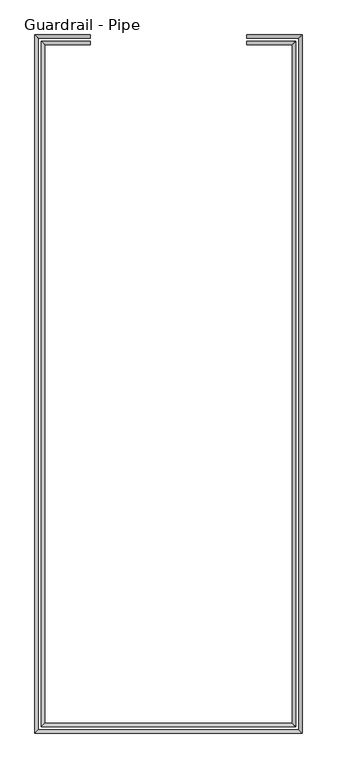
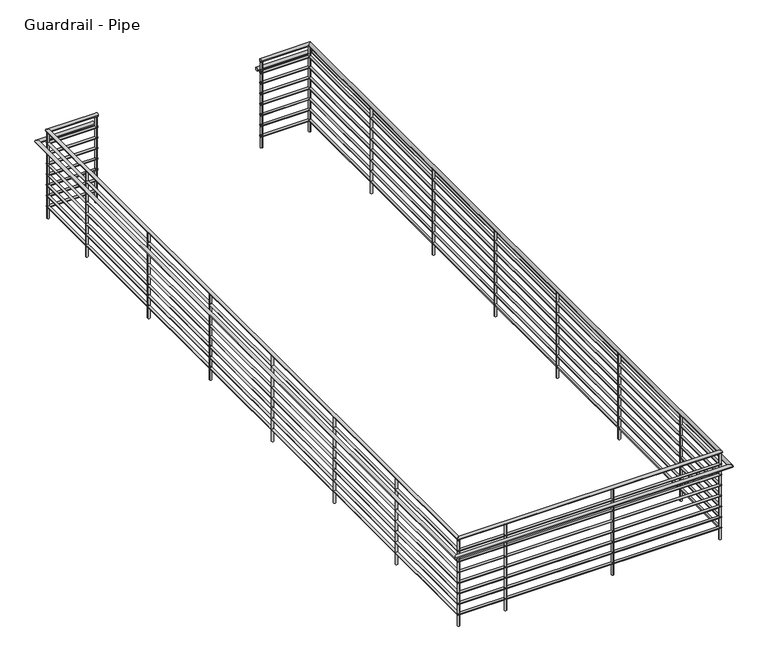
"""IFC4 building model written with IfcOpenShell, lengths in millimetres: railing geometry, Guardrail - Pipe."""

from ifc_helpers import new_model, si_unit, point, frame, frame_2d, origin, place, context, project, spatial, circle_curve, ellipse_curve, trimmed, segment, composite_curve, outline, extrude, source, transform, mapped, element, save
from ifc_brep_helpers import plane_surface, cylinder_surface, advanced_brep


def guardrail_pipe_5d98fd56(model_context):
    return source(origin(), model_context, "Body", "SolidModel", [
        advanced_brep(
        [(13389.3313551, 18983.25, 8362.95), (13389.3313551, 18945.15, 8362.95), (13967.1813551, 18983.25, 8362.95), (13929.0813551, 18945.15, 8362.95), (13967.1813551, 10867.95, 8362.95), (13929.0813551, 10906.05, 8362.95), (10956.4813551, 10867.95, 8362.95), (10994.5813551, 10906.05, 8362.95), (10956.4813551, 18983.25, 8362.95), (10994.5813551, 18945.15, 8362.95), (11534.3313551, 18983.25, 8362.95), (11534.3313551, 18945.15, 8362.95)],
        [
            (0, 1, circle_curve(frame((13389.3313551, 18964.2, 8362.95), z_axis=(-1.0, 0.0, 0.0), x_axis=(0.0, -1.0, 0.0)), 19.05)),
            (1, 0, circle_curve(frame((13389.3313551, 18964.2, 8362.95), z_axis=(-1.0, 0.0, 0.0), x_axis=(0.0, -1.0, 0.0)), 19.05)),
            (0, 2),
            (2, 3, ellipse_curve(frame((13948.1313551, 18964.2, 8362.95), z_axis=(-0.7071067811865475, 0.7071067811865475, 0.0), x_axis=(-0.7071067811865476, -0.7071067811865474, 0.0)), 26.9407684, 19.05)),
            (3, 1),
            (3, 2, ellipse_curve(frame((13948.1313551, 18964.2, 8362.95), z_axis=(-0.7071067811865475, 0.7071067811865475, 0.0), x_axis=(-0.7071067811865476, -0.7071067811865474, 0.0)), 26.9407684, 19.05)),
            (2, 4),
            (4, 5, ellipse_curve(frame((13948.1313551, 10887.0, 8362.95), z_axis=(0.7071067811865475, 0.7071067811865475, 0.0), x_axis=(-0.7071067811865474, 0.7071067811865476, 0.0)), 26.9407684, 19.05)),
            (5, 3),
            (5, 4, ellipse_curve(frame((13948.1313551, 10887.0, 8362.95), z_axis=(0.7071067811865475, 0.7071067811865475, 0.0), x_axis=(-0.7071067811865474, 0.7071067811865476, 0.0)), 26.9407684, 19.05)),
            (4, 6),
            (6, 7, ellipse_curve(frame((10975.5313551, 10887.0, 8362.95), z_axis=(0.7071067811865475, -0.7071067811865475, 0.0), x_axis=(0.7071067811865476, 0.7071067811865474, 0.0)), 26.9407684, 19.05)),
            (7, 5),
            (7, 6, ellipse_curve(frame((10975.5313551, 10887.0, 8362.95), z_axis=(0.7071067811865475, -0.7071067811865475, 0.0), x_axis=(0.7071067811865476, 0.7071067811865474, 0.0)), 26.9407684, 19.05)),
            (6, 8),
            (8, 9, ellipse_curve(frame((10975.5313551, 18964.2, 8362.95), z_axis=(-0.7071067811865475, -0.7071067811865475, 0.0), x_axis=(0.7071067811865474, -0.7071067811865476, 0.0)), 26.9407684, 19.05)),
            (9, 7),
            (9, 8, ellipse_curve(frame((10975.5313551, 18964.2, 8362.95), z_axis=(-0.7071067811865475, -0.7071067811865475, 0.0), x_axis=(0.7071067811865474, -0.7071067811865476, 0.0)), 26.9407684, 19.05)),
            (10, 11, circle_curve(frame((11534.3313551, 18964.2, 8362.95), z_axis=(1.0, 0.0, 0.0), x_axis=(0.0, -1.0, 0.0)), 19.05)),
            (11, 10, circle_curve(frame((11534.3313551, 18964.2, 8362.95), z_axis=(1.0, 0.0, 0.0), x_axis=(0.0, -1.0, 0.0)), 19.05)),
            (8, 10),
            (11, 9),
        ],
        [
            plane_surface(frame((13389.3313551, 18964.2, 8382.0), z_axis=(-1.0, 0.0, 0.0), x_axis=(0.0, 1.0, 0.0))),
            cylinder_surface(frame((13389.3313551, 18964.2, 8362.95), z_axis=(-1.0, 0.0, 0.0), x_axis=(0.0, -1.0, 0.0)), 19.05),
            cylinder_surface(frame((13948.1313551, 18964.2, 8362.95), z_axis=(0.0, 1.0, 0.0), x_axis=(-1.0, 0.0, 0.0)), 19.05),
            cylinder_surface(frame((13948.1313551, 10887.0, 8362.95), z_axis=(1.0, 0.0, 0.0), x_axis=(0.0, 1.0, 0.0)), 19.05),
            cylinder_surface(frame((10975.5313551, 10887.0, 8362.95), z_axis=(0.0, -1.0, 0.0), x_axis=(1.0, 0.0, 0.0)), 19.05),
            plane_surface(frame((11534.3313551, 18964.2, 8382.0), z_axis=(1.0, 0.0, 0.0), x_axis=(0.0, 1.0, 0.0))),
            cylinder_surface(frame((10975.5313551, 18964.2, 8362.95), z_axis=(-1.0, 0.0, 0.0), x_axis=(0.0, -1.0, 0.0)), 19.05),
        ],
        [
            (0, [[1, 2]]),
            (1, [[-1, 3, 4, 5]]),
            (1, [[-2, -5, 6, -3]]),
            (2, [[-4, 7, 8, 9]]),
            (2, [[-6, -9, 10, -7]]),
            (3, [[-8, 11, 12, 13]]),
            (3, [[-10, -13, 14, -11]]),
            (4, [[-12, 15, 16, 17]]),
            (4, [[-14, -17, 18, -15]]),
            (5, [[19, 20]]),
            (6, [[-16, 21, -20, 22]]),
            (6, [[-18, -22, -19, -21]]),
        ],
    ),
        advanced_brep(
        [(13389.3313551, 18976.9, 8216.9), (13389.3313551, 18951.5, 8216.9), (13960.8313551, 18976.9, 8216.9), (13935.4313551, 18951.5, 8216.9), (13960.8313551, 10874.3, 8216.9), (13935.4313551, 10899.7, 8216.9), (10962.8313551, 10874.3, 8216.9), (10988.2313551, 10899.7, 8216.9), (10962.8313551, 18976.9, 8216.9), (10988.2313551, 18951.5, 8216.9), (11534.3313551, 18976.9, 8216.9), (11534.3313551, 18951.5, 8216.9)],
        [
            (0, 1, circle_curve(frame((13389.3313551, 18964.2, 8216.9), z_axis=(-1.0, 0.0, 0.0), x_axis=(0.0, -1.0, 0.0)), 12.7)),
            (1, 0, circle_curve(frame((13389.3313551, 18964.2, 8216.9), z_axis=(-1.0, 0.0, 0.0), x_axis=(0.0, -1.0, 0.0)), 12.7)),
            (0, 2),
            (2, 3, ellipse_curve(frame((13948.1313551, 18964.2, 8216.9), z_axis=(-0.7071067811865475, 0.7071067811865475, 0.0), x_axis=(-0.7071067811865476, -0.7071067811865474, 0.0)), 17.9605122, 12.7)),
            (3, 1),
            (3, 2, ellipse_curve(frame((13948.1313551, 18964.2, 8216.9), z_axis=(-0.7071067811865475, 0.7071067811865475, 0.0), x_axis=(-0.7071067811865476, -0.7071067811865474, 0.0)), 17.9605122, 12.7)),
            (2, 4),
            (4, 5, ellipse_curve(frame((13948.1313551, 10887.0, 8216.9), z_axis=(0.7071067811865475, 0.7071067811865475, 0.0), x_axis=(-0.7071067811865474, 0.7071067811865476, 0.0)), 17.9605122, 12.7)),
            (5, 3),
            (5, 4, ellipse_curve(frame((13948.1313551, 10887.0, 8216.9), z_axis=(0.7071067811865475, 0.7071067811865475, 0.0), x_axis=(-0.7071067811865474, 0.7071067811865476, 0.0)), 17.9605122, 12.7)),
            (4, 6),
            (6, 7, ellipse_curve(frame((10975.5313551, 10887.0, 8216.9), z_axis=(0.7071067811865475, -0.7071067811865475, 0.0), x_axis=(0.7071067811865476, 0.7071067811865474, 0.0)), 17.9605122, 12.7)),
            (7, 5),
            (7, 6, ellipse_curve(frame((10975.5313551, 10887.0, 8216.9), z_axis=(0.7071067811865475, -0.7071067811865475, 0.0), x_axis=(0.7071067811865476, 0.7071067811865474, 0.0)), 17.9605122, 12.7)),
            (6, 8),
            (8, 9, ellipse_curve(frame((10975.5313551, 18964.2, 8216.9), z_axis=(-0.7071067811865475, -0.7071067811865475, 0.0), x_axis=(0.7071067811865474, -0.7071067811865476, 0.0)), 17.9605122, 12.7)),
            (9, 7),
            (9, 8, ellipse_curve(frame((10975.5313551, 18964.2, 8216.9), z_axis=(-0.7071067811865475, -0.7071067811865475, 0.0), x_axis=(0.7071067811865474, -0.7071067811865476, 0.0)), 17.9605122, 12.7)),
            (10, 11, circle_curve(frame((11534.3313551, 18964.2, 8216.9), z_axis=(1.0, 0.0, 0.0), x_axis=(0.0, -1.0, 0.0)), 12.7)),
            (11, 10, circle_curve(frame((11534.3313551, 18964.2, 8216.9), z_axis=(1.0, 0.0, 0.0), x_axis=(0.0, -1.0, 0.0)), 12.7)),
            (8, 10),
            (11, 9),
        ],
        [
            plane_surface(frame((13389.3313551, 18964.2, 8229.6), z_axis=(-1.0, 0.0, 0.0), x_axis=(0.0, 1.0, 0.0))),
            cylinder_surface(frame((13389.3313551, 18964.2, 8216.9), z_axis=(-1.0, 0.0, 0.0), x_axis=(0.0, -1.0, 0.0)), 12.7),
            cylinder_surface(frame((13948.1313551, 18964.2, 8216.9), z_axis=(0.0, 1.0, 0.0), x_axis=(-1.0, 0.0, 0.0)), 12.7),
            cylinder_surface(frame((13948.1313551, 10887.0, 8216.9), z_axis=(1.0, 0.0, 0.0), x_axis=(0.0, 1.0, 0.0)), 12.7),
            cylinder_surface(frame((10975.5313551, 10887.0, 8216.9), z_axis=(0.0, -1.0, 0.0), x_axis=(1.0, 0.0, 0.0)), 12.7),
            plane_surface(frame((11534.3313551, 18964.2, 8229.6), z_axis=(1.0, 0.0, 0.0), x_axis=(0.0, 1.0, 0.0))),
            cylinder_surface(frame((10975.5313551, 18964.2, 8216.9), z_axis=(-1.0, 0.0, 0.0), x_axis=(0.0, -1.0, 0.0)), 12.7),
        ],
        [
            (0, [[1, 2]]),
            (1, [[-1, 3, 4, 5]]),
            (1, [[-2, -5, 6, -3]]),
            (2, [[-4, 7, 8, 9]]),
            (2, [[-6, -9, 10, -7]]),
            (3, [[-8, 11, 12, 13]]),
            (3, [[-10, -13, 14, -11]]),
            (4, [[-12, 15, 16, 17]]),
            (4, [[-14, -17, 18, -15]]),
            (5, [[19, 20]]),
            (6, [[-16, 21, -20, 22]]),
            (6, [[-18, -22, -19, -21]]),
        ],
    ),
        advanced_brep(
        [(13389.3313551, 19059.45, 8210.55), (13389.3313551, 19021.35, 8210.55), (14043.3813551, 19059.45, 8210.55), (14005.2813551, 19021.35, 8210.55), (14043.3813551, 10791.75, 8210.55), (14005.2813551, 10829.85, 8210.55), (10880.2813551, 10791.75, 8210.55), (10918.3813551, 10829.85, 8210.55), (10880.2813551, 19059.45, 8210.55), (10918.3813551, 19021.35, 8210.55), (11534.3313551, 19059.45, 8210.55), (11534.3313551, 19021.35, 8210.55)],
        [
            (0, 1, circle_curve(frame((13389.3313551, 19040.4, 8210.55), z_axis=(-1.0, 0.0, 0.0), x_axis=(0.0, -1.0, 0.0)), 19.05)),
            (1, 0, circle_curve(frame((13389.3313551, 19040.4, 8210.55), z_axis=(-1.0, 0.0, 0.0), x_axis=(0.0, -1.0, 0.0)), 19.05)),
            (0, 2),
            (2, 3, ellipse_curve(frame((14024.3313551, 19040.4, 8210.55), z_axis=(-0.7071067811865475, 0.7071067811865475, 0.0), x_axis=(-0.7071067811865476, -0.7071067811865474, 0.0)), 26.9407684, 19.05)),
            (3, 1),
            (3, 2, ellipse_curve(frame((14024.3313551, 19040.4, 8210.55), z_axis=(-0.7071067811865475, 0.7071067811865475, 0.0), x_axis=(-0.7071067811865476, -0.7071067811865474, 0.0)), 26.9407684, 19.05)),
            (2, 4),
            (4, 5, ellipse_curve(frame((14024.3313551, 10810.8, 8210.55), z_axis=(0.7071067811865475, 0.7071067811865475, 0.0), x_axis=(-0.7071067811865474, 0.7071067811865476, 0.0)), 26.9407684, 19.05)),
            (5, 3),
            (5, 4, ellipse_curve(frame((14024.3313551, 10810.8, 8210.55), z_axis=(0.7071067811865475, 0.7071067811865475, 0.0), x_axis=(-0.7071067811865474, 0.7071067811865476, 0.0)), 26.9407684, 19.05)),
            (4, 6),
            (6, 7, ellipse_curve(frame((10899.3313551, 10810.8, 8210.55), z_axis=(0.7071067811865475, -0.7071067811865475, 0.0), x_axis=(0.7071067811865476, 0.7071067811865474, 0.0)), 26.9407684, 19.05)),
            (7, 5),
            (7, 6, ellipse_curve(frame((10899.3313551, 10810.8, 8210.55), z_axis=(0.7071067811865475, -0.7071067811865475, 0.0), x_axis=(0.7071067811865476, 0.7071067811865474, 0.0)), 26.9407684, 19.05)),
            (6, 8),
            (8, 9, ellipse_curve(frame((10899.3313551, 19040.4, 8210.55), z_axis=(-0.7071067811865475, -0.7071067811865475, 0.0), x_axis=(0.7071067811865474, -0.7071067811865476, 0.0)), 26.9407684, 19.05)),
            (9, 7),
            (9, 8, ellipse_curve(frame((10899.3313551, 19040.4, 8210.55), z_axis=(-0.7071067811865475, -0.7071067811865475, 0.0), x_axis=(0.7071067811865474, -0.7071067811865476, 0.0)), 26.9407684, 19.05)),
            (10, 11, circle_curve(frame((11534.3313551, 19040.4, 8210.55), z_axis=(1.0, 0.0, 0.0), x_axis=(0.0, -1.0, 0.0)), 19.05)),
            (11, 10, circle_curve(frame((11534.3313551, 19040.4, 8210.55), z_axis=(1.0, 0.0, 0.0), x_axis=(0.0, -1.0, 0.0)), 19.05)),
            (8, 10),
            (11, 9),
        ],
        [
            plane_surface(frame((13389.3313551, 19040.4, 8229.6), z_axis=(-1.0, 0.0, 0.0), x_axis=(0.0, 1.0, 0.0))),
            cylinder_surface(frame((13389.3313551, 19040.4, 8210.55), z_axis=(-1.0, 0.0, 0.0), x_axis=(0.0, -1.0, 0.0)), 19.05),
            cylinder_surface(frame((14024.3313551, 19040.4, 8210.55), z_axis=(0.0, 1.0, 0.0), x_axis=(-1.0, 0.0, 0.0)), 19.05),
            cylinder_surface(frame((14024.3313551, 10810.8, 8210.55), z_axis=(1.0, 0.0, 0.0), x_axis=(0.0, 1.0, 0.0)), 19.05),
            cylinder_surface(frame((10899.3313551, 10810.8, 8210.55), z_axis=(0.0, -1.0, 0.0), x_axis=(1.0, 0.0, 0.0)), 19.05),
            plane_surface(frame((11534.3313551, 19040.4, 8229.6), z_axis=(1.0, 0.0, 0.0), x_axis=(0.0, 1.0, 0.0))),
            cylinder_surface(frame((10899.3313551, 19040.4, 8210.55), z_axis=(-1.0, 0.0, 0.0), x_axis=(0.0, -1.0, 0.0)), 19.05),
        ],
        [
            (0, [[1, 2]]),
            (1, [[-1, 3, 4, 5]]),
            (1, [[-2, -5, 6, -3]]),
            (2, [[-4, 7, 8, 9]]),
            (2, [[-6, -9, 10, -7]]),
            (3, [[-8, 11, 12, 13]]),
            (3, [[-10, -13, 14, -11]]),
            (4, [[-12, 15, 16, 17]]),
            (4, [[-14, -17, 18, -15]]),
            (5, [[19, 20]]),
            (6, [[-16, 21, -20, 22]]),
            (6, [[-18, -22, -19, -21]]),
        ],
    ),
        advanced_brep(
        [(13389.3313551, 18976.9, 8089.9), (13389.3313551, 18951.5, 8089.9), (13960.8313551, 18976.9, 8089.9), (13935.4313551, 18951.5, 8089.9), (13960.8313551, 10874.3, 8089.9), (13935.4313551, 10899.7, 8089.9), (10962.8313551, 10874.3, 8089.9), (10988.2313551, 10899.7, 8089.9), (10962.8313551, 18976.9, 8089.9), (10988.2313551, 18951.5, 8089.9), (11534.3313551, 18976.9, 8089.9), (11534.3313551, 18951.5, 8089.9)],
        [
            (0, 1, circle_curve(frame((13389.3313551, 18964.2, 8089.9), z_axis=(-1.0, 0.0, 0.0), x_axis=(0.0, -1.0, 0.0)), 12.7)),
            (1, 0, circle_curve(frame((13389.3313551, 18964.2, 8089.9), z_axis=(-1.0, 0.0, 0.0), x_axis=(0.0, -1.0, 0.0)), 12.7)),
            (0, 2),
            (2, 3, ellipse_curve(frame((13948.1313551, 18964.2, 8089.9), z_axis=(-0.7071067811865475, 0.7071067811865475, 0.0), x_axis=(-0.7071067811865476, -0.7071067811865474, 0.0)), 17.9605122, 12.7)),
            (3, 1),
            (3, 2, ellipse_curve(frame((13948.1313551, 18964.2, 8089.9), z_axis=(-0.7071067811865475, 0.7071067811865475, 0.0), x_axis=(-0.7071067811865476, -0.7071067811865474, 0.0)), 17.9605122, 12.7)),
            (2, 4),
            (4, 5, ellipse_curve(frame((13948.1313551, 10887.0, 8089.9), z_axis=(0.7071067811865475, 0.7071067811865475, 0.0), x_axis=(-0.7071067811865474, 0.7071067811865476, 0.0)), 17.9605122, 12.7)),
            (5, 3),
            (5, 4, ellipse_curve(frame((13948.1313551, 10887.0, 8089.9), z_axis=(0.7071067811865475, 0.7071067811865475, 0.0), x_axis=(-0.7071067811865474, 0.7071067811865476, 0.0)), 17.9605122, 12.7)),
            (4, 6),
            (6, 7, ellipse_curve(frame((10975.5313551, 10887.0, 8089.9), z_axis=(0.7071067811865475, -0.7071067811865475, 0.0), x_axis=(0.7071067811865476, 0.7071067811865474, 0.0)), 17.9605122, 12.7)),
            (7, 5),
            (7, 6, ellipse_curve(frame((10975.5313551, 10887.0, 8089.9), z_axis=(0.7071067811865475, -0.7071067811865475, 0.0), x_axis=(0.7071067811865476, 0.7071067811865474, 0.0)), 17.9605122, 12.7)),
            (6, 8),
            (8, 9, ellipse_curve(frame((10975.5313551, 18964.2, 8089.9), z_axis=(-0.7071067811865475, -0.7071067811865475, 0.0), x_axis=(0.7071067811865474, -0.7071067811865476, 0.0)), 17.9605122, 12.7)),
            (9, 7),
            (9, 8, ellipse_curve(frame((10975.5313551, 18964.2, 8089.9), z_axis=(-0.7071067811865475, -0.7071067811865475, 0.0), x_axis=(0.7071067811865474, -0.7071067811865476, 0.0)), 17.9605122, 12.7)),
            (10, 11, circle_curve(frame((11534.3313551, 18964.2, 8089.9), z_axis=(1.0, 0.0, 0.0), x_axis=(0.0, -1.0, 0.0)), 12.7)),
            (11, 10, circle_curve(frame((11534.3313551, 18964.2, 8089.9), z_axis=(1.0, 0.0, 0.0), x_axis=(0.0, -1.0, 0.0)), 12.7)),
            (8, 10),
            (11, 9),
        ],
        [
            plane_surface(frame((13389.3313551, 18964.2, 8102.6), z_axis=(-1.0, 0.0, 0.0), x_axis=(0.0, 1.0, 0.0))),
            cylinder_surface(frame((13389.3313551, 18964.2, 8089.9), z_axis=(-1.0, 0.0, 0.0), x_axis=(0.0, -1.0, 0.0)), 12.7),
            cylinder_surface(frame((13948.1313551, 18964.2, 8089.9), z_axis=(0.0, 1.0, 0.0), x_axis=(-1.0, 0.0, 0.0)), 12.7),
            cylinder_surface(frame((13948.1313551, 10887.0, 8089.9), z_axis=(1.0, 0.0, 0.0), x_axis=(0.0, 1.0, 0.0)), 12.7),
            cylinder_surface(frame((10975.5313551, 10887.0, 8089.9), z_axis=(0.0, -1.0, 0.0), x_axis=(1.0, 0.0, 0.0)), 12.7),
            plane_surface(frame((11534.3313551, 18964.2, 8102.6), z_axis=(1.0, 0.0, 0.0), x_axis=(0.0, 1.0, 0.0))),
            cylinder_surface(frame((10975.5313551, 18964.2, 8089.9), z_axis=(-1.0, 0.0, 0.0), x_axis=(0.0, -1.0, 0.0)), 12.7),
        ],
        [
            (0, [[1, 2]]),
            (1, [[-1, 3, 4, 5]]),
            (1, [[-2, -5, 6, -3]]),
            (2, [[-4, 7, 8, 9]]),
            (2, [[-6, -9, 10, -7]]),
            (3, [[-8, 11, 12, 13]]),
            (3, [[-10, -13, 14, -11]]),
            (4, [[-12, 15, 16, 17]]),
            (4, [[-14, -17, 18, -15]]),
            (5, [[19, 20]]),
            (6, [[-16, 21, -20, 22]]),
            (6, [[-18, -22, -19, -21]]),
        ],
    ),
        advanced_brep(
        [(13389.3313551, 18976.9, 7962.9), (13389.3313551, 18951.5, 7962.9), (13960.8313551, 18976.9, 7962.9), (13935.4313551, 18951.5, 7962.9), (13960.8313551, 10874.3, 7962.9), (13935.4313551, 10899.7, 7962.9), (10962.8313551, 10874.3, 7962.9), (10988.2313551, 10899.7, 7962.9), (10962.8313551, 18976.9, 7962.9), (10988.2313551, 18951.5, 7962.9), (11534.3313551, 18976.9, 7962.9), (11534.3313551, 18951.5, 7962.9)],
        [
            (0, 1, circle_curve(frame((13389.3313551, 18964.2, 7962.9), z_axis=(-1.0, 0.0, 0.0), x_axis=(0.0, -1.0, 0.0)), 12.7)),
            (1, 0, circle_curve(frame((13389.3313551, 18964.2, 7962.9), z_axis=(-1.0, 0.0, 0.0), x_axis=(0.0, -1.0, 0.0)), 12.7)),
            (0, 2),
            (2, 3, ellipse_curve(frame((13948.1313551, 18964.2, 7962.9), z_axis=(-0.7071067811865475, 0.7071067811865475, 0.0), x_axis=(-0.7071067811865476, -0.7071067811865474, 0.0)), 17.9605122, 12.7)),
            (3, 1),
            (3, 2, ellipse_curve(frame((13948.1313551, 18964.2, 7962.9), z_axis=(-0.7071067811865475, 0.7071067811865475, 0.0), x_axis=(-0.7071067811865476, -0.7071067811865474, 0.0)), 17.9605122, 12.7)),
            (2, 4),
            (4, 5, ellipse_curve(frame((13948.1313551, 10887.0, 7962.9), z_axis=(0.7071067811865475, 0.7071067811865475, 0.0), x_axis=(-0.7071067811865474, 0.7071067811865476, 0.0)), 17.9605122, 12.7)),
            (5, 3),
            (5, 4, ellipse_curve(frame((13948.1313551, 10887.0, 7962.9), z_axis=(0.7071067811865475, 0.7071067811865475, 0.0), x_axis=(-0.7071067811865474, 0.7071067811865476, 0.0)), 17.9605122, 12.7)),
            (4, 6),
            (6, 7, ellipse_curve(frame((10975.5313551, 10887.0, 7962.9), z_axis=(0.7071067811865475, -0.7071067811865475, 0.0), x_axis=(0.7071067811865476, 0.7071067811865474, 0.0)), 17.9605122, 12.7)),
            (7, 5),
            (7, 6, ellipse_curve(frame((10975.5313551, 10887.0, 7962.9), z_axis=(0.7071067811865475, -0.7071067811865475, 0.0), x_axis=(0.7071067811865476, 0.7071067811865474, 0.0)), 17.9605122, 12.7)),
            (6, 8),
            (8, 9, ellipse_curve(frame((10975.5313551, 18964.2, 7962.9), z_axis=(-0.7071067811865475, -0.7071067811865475, 0.0), x_axis=(0.7071067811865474, -0.7071067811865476, 0.0)), 17.9605122, 12.7)),
            (9, 7),
            (9, 8, ellipse_curve(frame((10975.5313551, 18964.2, 7962.9), z_axis=(-0.7071067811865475, -0.7071067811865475, 0.0), x_axis=(0.7071067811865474, -0.7071067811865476, 0.0)), 17.9605122, 12.7)),
            (10, 11, circle_curve(frame((11534.3313551, 18964.2, 7962.9), z_axis=(1.0, 0.0, 0.0), x_axis=(0.0, -1.0, 0.0)), 12.7)),
            (11, 10, circle_curve(frame((11534.3313551, 18964.2, 7962.9), z_axis=(1.0, 0.0, 0.0), x_axis=(0.0, -1.0, 0.0)), 12.7)),
            (8, 10),
            (11, 9),
        ],
        [
            plane_surface(frame((13389.3313551, 18964.2, 7975.6), z_axis=(-1.0, 0.0, 0.0), x_axis=(0.0, 1.0, 0.0))),
            cylinder_surface(frame((13389.3313551, 18964.2, 7962.9), z_axis=(-1.0, 0.0, 0.0), x_axis=(0.0, -1.0, 0.0)), 12.7),
            cylinder_surface(frame((13948.1313551, 18964.2, 7962.9), z_axis=(0.0, 1.0, 0.0), x_axis=(-1.0, 0.0, 0.0)), 12.7),
            cylinder_surface(frame((13948.1313551, 10887.0, 7962.9), z_axis=(1.0, 0.0, 0.0), x_axis=(0.0, 1.0, 0.0)), 12.7),
            cylinder_surface(frame((10975.5313551, 10887.0, 7962.9), z_axis=(0.0, -1.0, 0.0), x_axis=(1.0, 0.0, 0.0)), 12.7),
            plane_surface(frame((11534.3313551, 18964.2, 7975.6), z_axis=(1.0, 0.0, 0.0), x_axis=(0.0, 1.0, 0.0))),
            cylinder_surface(frame((10975.5313551, 18964.2, 7962.9), z_axis=(-1.0, 0.0, 0.0), x_axis=(0.0, -1.0, 0.0)), 12.7),
        ],
        [
            (0, [[1, 2]]),
            (1, [[-1, 3, 4, 5]]),
            (1, [[-2, -5, 6, -3]]),
            (2, [[-4, 7, 8, 9]]),
            (2, [[-6, -9, 10, -7]]),
            (3, [[-8, 11, 12, 13]]),
            (3, [[-10, -13, 14, -11]]),
            (4, [[-12, 15, 16, 17]]),
            (4, [[-14, -17, 18, -15]]),
            (5, [[19, 20]]),
            (6, [[-16, 21, -20, 22]]),
            (6, [[-18, -22, -19, -21]]),
        ],
    ),
        advanced_brep(
        [(13389.3313551, 18976.9, 7835.9), (13389.3313551, 18951.5, 7835.9), (13960.8313551, 18976.9, 7835.9), (13935.4313551, 18951.5, 7835.9), (13960.8313551, 10874.3, 7835.9), (13935.4313551, 10899.7, 7835.9), (10962.8313551, 10874.3, 7835.9), (10988.2313551, 10899.7, 7835.9), (10962.8313551, 18976.9, 7835.9), (10988.2313551, 18951.5, 7835.9), (11534.3313551, 18976.9, 7835.9), (11534.3313551, 18951.5, 7835.9)],
        [
            (0, 1, circle_curve(frame((13389.3313551, 18964.2, 7835.9), z_axis=(-1.0, 0.0, 0.0), x_axis=(0.0, -1.0, 0.0)), 12.7)),
            (1, 0, circle_curve(frame((13389.3313551, 18964.2, 7835.9), z_axis=(-1.0, 0.0, 0.0), x_axis=(0.0, -1.0, 0.0)), 12.7)),
            (0, 2),
            (2, 3, ellipse_curve(frame((13948.1313551, 18964.2, 7835.9), z_axis=(-0.7071067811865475, 0.7071067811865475, 0.0), x_axis=(-0.7071067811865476, -0.7071067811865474, 0.0)), 17.9605122, 12.7)),
            (3, 1),
            (3, 2, ellipse_curve(frame((13948.1313551, 18964.2, 7835.9), z_axis=(-0.7071067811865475, 0.7071067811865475, 0.0), x_axis=(-0.7071067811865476, -0.7071067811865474, 0.0)), 17.9605122, 12.7)),
            (2, 4),
            (4, 5, ellipse_curve(frame((13948.1313551, 10887.0, 7835.9), z_axis=(0.7071067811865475, 0.7071067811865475, 0.0), x_axis=(-0.7071067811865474, 0.7071067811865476, 0.0)), 17.9605122, 12.7)),
            (5, 3),
            (5, 4, ellipse_curve(frame((13948.1313551, 10887.0, 7835.9), z_axis=(0.7071067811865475, 0.7071067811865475, 0.0), x_axis=(-0.7071067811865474, 0.7071067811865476, 0.0)), 17.9605122, 12.7)),
            (4, 6),
            (6, 7, ellipse_curve(frame((10975.5313551, 10887.0, 7835.9), z_axis=(0.7071067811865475, -0.7071067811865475, 0.0), x_axis=(0.7071067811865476, 0.7071067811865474, 0.0)), 17.9605122, 12.7)),
            (7, 5),
            (7, 6, ellipse_curve(frame((10975.5313551, 10887.0, 7835.9), z_axis=(0.7071067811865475, -0.7071067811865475, 0.0), x_axis=(0.7071067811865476, 0.7071067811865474, 0.0)), 17.9605122, 12.7)),
            (6, 8),
            (8, 9, ellipse_curve(frame((10975.5313551, 18964.2, 7835.9), z_axis=(-0.7071067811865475, -0.7071067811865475, 0.0), x_axis=(0.7071067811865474, -0.7071067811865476, 0.0)), 17.9605122, 12.7)),
            (9, 7),
            (9, 8, ellipse_curve(frame((10975.5313551, 18964.2, 7835.9), z_axis=(-0.7071067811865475, -0.7071067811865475, 0.0), x_axis=(0.7071067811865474, -0.7071067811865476, 0.0)), 17.9605122, 12.7)),
            (10, 11, circle_curve(frame((11534.3313551, 18964.2, 7835.9), z_axis=(1.0, 0.0, 0.0), x_axis=(0.0, -1.0, 0.0)), 12.7)),
            (11, 10, circle_curve(frame((11534.3313551, 18964.2, 7835.9), z_axis=(1.0, 0.0, 0.0), x_axis=(0.0, -1.0, 0.0)), 12.7)),
            (8, 10),
            (11, 9),
        ],
        [
            plane_surface(frame((13389.3313551, 18964.2, 7848.6), z_axis=(-1.0, 0.0, 0.0), x_axis=(0.0, 1.0, 0.0))),
            cylinder_surface(frame((13389.3313551, 18964.2, 7835.9), z_axis=(-1.0, 0.0, 0.0), x_axis=(0.0, -1.0, 0.0)), 12.7),
            cylinder_surface(frame((13948.1313551, 18964.2, 7835.9), z_axis=(0.0, 1.0, 0.0), x_axis=(-1.0, 0.0, 0.0)), 12.7),
            cylinder_surface(frame((13948.1313551, 10887.0, 7835.9), z_axis=(1.0, 0.0, 0.0), x_axis=(0.0, 1.0, 0.0)), 12.7),
            cylinder_surface(frame((10975.5313551, 10887.0, 7835.9), z_axis=(0.0, -1.0, 0.0), x_axis=(1.0, 0.0, 0.0)), 12.7),
            plane_surface(frame((11534.3313551, 18964.2, 7848.6), z_axis=(1.0, 0.0, 0.0), x_axis=(0.0, 1.0, 0.0))),
            cylinder_surface(frame((10975.5313551, 18964.2, 7835.9), z_axis=(-1.0, 0.0, 0.0), x_axis=(0.0, -1.0, 0.0)), 12.7),
        ],
        [
            (0, [[1, 2]]),
            (1, [[-1, 3, 4, 5]]),
            (1, [[-2, -5, 6, -3]]),
            (2, [[-4, 7, 8, 9]]),
            (2, [[-6, -9, 10, -7]]),
            (3, [[-8, 11, 12, 13]]),
            (3, [[-10, -13, 14, -11]]),
            (4, [[-12, 15, 16, 17]]),
            (4, [[-14, -17, 18, -15]]),
            (5, [[19, 20]]),
            (6, [[-16, 21, -20, 22]]),
            (6, [[-18, -22, -19, -21]]),
        ],
    ),
        advanced_brep(
        [(13389.3313551, 18976.9, 7708.9), (13389.3313551, 18951.5, 7708.9), (13960.8313551, 18976.9, 7708.9), (13935.4313551, 18951.5, 7708.9), (13960.8313551, 10874.3, 7708.9), (13935.4313551, 10899.7, 7708.9), (10962.8313551, 10874.3, 7708.9), (10988.2313551, 10899.7, 7708.9), (10962.8313551, 18976.9, 7708.9), (10988.2313551, 18951.5, 7708.9), (11534.3313551, 18976.9, 7708.9), (11534.3313551, 18951.5, 7708.9)],
        [
            (0, 1, circle_curve(frame((13389.3313551, 18964.2, 7708.9), z_axis=(-1.0, 0.0, 0.0), x_axis=(0.0, -1.0, 0.0)), 12.7)),
            (1, 0, circle_curve(frame((13389.3313551, 18964.2, 7708.9), z_axis=(-1.0, 0.0, 0.0), x_axis=(0.0, -1.0, 0.0)), 12.7)),
            (0, 2),
            (2, 3, ellipse_curve(frame((13948.1313551, 18964.2, 7708.9), z_axis=(-0.7071067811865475, 0.7071067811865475, 0.0), x_axis=(-0.7071067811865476, -0.7071067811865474, 0.0)), 17.9605122, 12.7)),
            (3, 1),
            (3, 2, ellipse_curve(frame((13948.1313551, 18964.2, 7708.9), z_axis=(-0.7071067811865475, 0.7071067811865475, 0.0), x_axis=(-0.7071067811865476, -0.7071067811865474, 0.0)), 17.9605122, 12.7)),
            (2, 4),
            (4, 5, ellipse_curve(frame((13948.1313551, 10887.0, 7708.9), z_axis=(0.7071067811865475, 0.7071067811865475, 0.0), x_axis=(-0.7071067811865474, 0.7071067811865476, 0.0)), 17.9605122, 12.7)),
            (5, 3),
            (5, 4, ellipse_curve(frame((13948.1313551, 10887.0, 7708.9), z_axis=(0.7071067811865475, 0.7071067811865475, 0.0), x_axis=(-0.7071067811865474, 0.7071067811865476, 0.0)), 17.9605122, 12.7)),
            (4, 6),
            (6, 7, ellipse_curve(frame((10975.5313551, 10887.0, 7708.9), z_axis=(0.7071067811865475, -0.7071067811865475, 0.0), x_axis=(0.7071067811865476, 0.7071067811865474, 0.0)), 17.9605122, 12.7)),
            (7, 5),
            (7, 6, ellipse_curve(frame((10975.5313551, 10887.0, 7708.9), z_axis=(0.7071067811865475, -0.7071067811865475, 0.0), x_axis=(0.7071067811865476, 0.7071067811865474, 0.0)), 17.9605122, 12.7)),
            (6, 8),
            (8, 9, ellipse_curve(frame((10975.5313551, 18964.2, 7708.9), z_axis=(-0.7071067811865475, -0.7071067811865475, 0.0), x_axis=(0.7071067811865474, -0.7071067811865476, 0.0)), 17.9605122, 12.7)),
            (9, 7),
            (9, 8, ellipse_curve(frame((10975.5313551, 18964.2, 7708.9), z_axis=(-0.7071067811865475, -0.7071067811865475, 0.0), x_axis=(0.7071067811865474, -0.7071067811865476, 0.0)), 17.9605122, 12.7)),
            (10, 11, circle_curve(frame((11534.3313551, 18964.2, 7708.9), z_axis=(1.0, 0.0, 0.0), x_axis=(0.0, -1.0, 0.0)), 12.7)),
            (11, 10, circle_curve(frame((11534.3313551, 18964.2, 7708.9), z_axis=(1.0, 0.0, 0.0), x_axis=(0.0, -1.0, 0.0)), 12.7)),
            (8, 10),
            (11, 9),
        ],
        [
            plane_surface(frame((13389.3313551, 18964.2, 7721.6), z_axis=(-1.0, 0.0, 0.0), x_axis=(0.0, 1.0, 0.0))),
            cylinder_surface(frame((13389.3313551, 18964.2, 7708.9), z_axis=(-1.0, 0.0, 0.0), x_axis=(0.0, -1.0, 0.0)), 12.7),
            cylinder_surface(frame((13948.1313551, 18964.2, 7708.9), z_axis=(0.0, 1.0, 0.0), x_axis=(-1.0, 0.0, 0.0)), 12.7),
            cylinder_surface(frame((13948.1313551, 10887.0, 7708.9), z_axis=(1.0, 0.0, 0.0), x_axis=(0.0, 1.0, 0.0)), 12.7),
            cylinder_surface(frame((10975.5313551, 10887.0, 7708.9), z_axis=(0.0, -1.0, 0.0), x_axis=(1.0, 0.0, 0.0)), 12.7),
            plane_surface(frame((11534.3313551, 18964.2, 7721.6), z_axis=(1.0, 0.0, 0.0), x_axis=(0.0, 1.0, 0.0))),
            cylinder_surface(frame((10975.5313551, 18964.2, 7708.9), z_axis=(-1.0, 0.0, 0.0), x_axis=(0.0, -1.0, 0.0)), 12.7),
        ],
        [
            (0, [[1, 2]]),
            (1, [[-1, 3, 4, 5]]),
            (1, [[-2, -5, 6, -3]]),
            (2, [[-4, 7, 8, 9]]),
            (2, [[-6, -9, 10, -7]]),
            (3, [[-8, 11, 12, 13]]),
            (3, [[-10, -13, 14, -11]]),
            (4, [[-12, 15, 16, 17]]),
            (4, [[-14, -17, 18, -15]]),
            (5, [[19, 20]]),
            (6, [[-16, 21, -20, 22]]),
            (6, [[-18, -22, -19, -21]]),
        ],
    ),
        advanced_brep(
        [(13389.3313551, 18976.9, 7581.9), (13389.3313551, 18951.5, 7581.9), (13960.8313551, 18976.9, 7581.9), (13935.4313551, 18951.5, 7581.9), (13960.8313551, 10874.3, 7581.9), (13935.4313551, 10899.7, 7581.9), (10962.8313551, 10874.3, 7581.9), (10988.2313551, 10899.7, 7581.9), (10962.8313551, 18976.9, 7581.9), (10988.2313551, 18951.5, 7581.9), (11534.3313551, 18976.9, 7581.9), (11534.3313551, 18951.5, 7581.9)],
        [
            (0, 1, circle_curve(frame((13389.3313551, 18964.2, 7581.9), z_axis=(-1.0, 0.0, 0.0), x_axis=(0.0, -1.0, 0.0)), 12.7)),
            (1, 0, circle_curve(frame((13389.3313551, 18964.2, 7581.9), z_axis=(-1.0, 0.0, 0.0), x_axis=(0.0, -1.0, 0.0)), 12.7)),
            (0, 2),
            (2, 3, ellipse_curve(frame((13948.1313551, 18964.2, 7581.9), z_axis=(-0.7071067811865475, 0.7071067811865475, 0.0), x_axis=(-0.7071067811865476, -0.7071067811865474, 0.0)), 17.9605122, 12.7)),
            (3, 1),
            (3, 2, ellipse_curve(frame((13948.1313551, 18964.2, 7581.9), z_axis=(-0.7071067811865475, 0.7071067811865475, 0.0), x_axis=(-0.7071067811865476, -0.7071067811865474, 0.0)), 17.9605122, 12.7)),
            (2, 4),
            (4, 5, ellipse_curve(frame((13948.1313551, 10887.0, 7581.9), z_axis=(0.7071067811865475, 0.7071067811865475, 0.0), x_axis=(-0.7071067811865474, 0.7071067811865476, 0.0)), 17.9605122, 12.7)),
            (5, 3),
            (5, 4, ellipse_curve(frame((13948.1313551, 10887.0, 7581.9), z_axis=(0.7071067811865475, 0.7071067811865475, 0.0), x_axis=(-0.7071067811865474, 0.7071067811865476, 0.0)), 17.9605122, 12.7)),
            (4, 6),
            (6, 7, ellipse_curve(frame((10975.5313551, 10887.0, 7581.9), z_axis=(0.7071067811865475, -0.7071067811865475, 0.0), x_axis=(0.7071067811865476, 0.7071067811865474, 0.0)), 17.9605122, 12.7)),
            (7, 5),
            (7, 6, ellipse_curve(frame((10975.5313551, 10887.0, 7581.9), z_axis=(0.7071067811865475, -0.7071067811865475, 0.0), x_axis=(0.7071067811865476, 0.7071067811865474, 0.0)), 17.9605122, 12.7)),
            (6, 8),
            (8, 9, ellipse_curve(frame((10975.5313551, 18964.2, 7581.9), z_axis=(-0.7071067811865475, -0.7071067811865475, 0.0), x_axis=(0.7071067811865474, -0.7071067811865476, 0.0)), 17.9605122, 12.7)),
            (9, 7),
            (9, 8, ellipse_curve(frame((10975.5313551, 18964.2, 7581.9), z_axis=(-0.7071067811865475, -0.7071067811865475, 0.0), x_axis=(0.7071067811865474, -0.7071067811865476, 0.0)), 17.9605122, 12.7)),
            (10, 11, circle_curve(frame((11534.3313551, 18964.2, 7581.9), z_axis=(1.0, 0.0, 0.0), x_axis=(0.0, -1.0, 0.0)), 12.7)),
            (11, 10, circle_curve(frame((11534.3313551, 18964.2, 7581.9), z_axis=(1.0, 0.0, 0.0), x_axis=(0.0, -1.0, 0.0)), 12.7)),
            (8, 10),
            (11, 9),
        ],
        [
            plane_surface(frame((13389.3313551, 18964.2, 7594.6), z_axis=(-1.0, 0.0, 0.0), x_axis=(0.0, 1.0, 0.0))),
            cylinder_surface(frame((13389.3313551, 18964.2, 7581.9), z_axis=(-1.0, 0.0, 0.0), x_axis=(0.0, -1.0, 0.0)), 12.7),
            cylinder_surface(frame((13948.1313551, 18964.2, 7581.9), z_axis=(0.0, 1.0, 0.0), x_axis=(-1.0, 0.0, 0.0)), 12.7),
            cylinder_surface(frame((13948.1313551, 10887.0, 7581.9), z_axis=(1.0, 0.0, 0.0), x_axis=(0.0, 1.0, 0.0)), 12.7),
            cylinder_surface(frame((10975.5313551, 10887.0, 7581.9), z_axis=(0.0, -1.0, 0.0), x_axis=(1.0, 0.0, 0.0)), 12.7),
            plane_surface(frame((11534.3313551, 18964.2, 7594.6), z_axis=(1.0, 0.0, 0.0), x_axis=(0.0, 1.0, 0.0))),
            cylinder_surface(frame((10975.5313551, 18964.2, 7581.9), z_axis=(-1.0, 0.0, 0.0), x_axis=(0.0, -1.0, 0.0)), 12.7),
        ],
        [
            (0, [[1, 2]]),
            (1, [[-1, 3, 4, 5]]),
            (1, [[-2, -5, 6, -3]]),
            (2, [[-4, 7, 8, 9]]),
            (2, [[-6, -9, 10, -7]]),
            (3, [[-8, 11, 12, 13]]),
            (3, [[-10, -13, 14, -11]]),
            (4, [[-12, 15, 16, 17]]),
            (4, [[-14, -17, 18, -15]]),
            (5, [[19, 20]]),
            (6, [[-16, 21, -20, 22]]),
            (6, [[-18, -22, -19, -21]]),
        ],
    ),
        advanced_brep(
        [(13389.3313551, 18976.9, 7454.9), (13389.3313551, 18951.5, 7454.9), (13960.8313551, 18976.9, 7454.9), (13935.4313551, 18951.5, 7454.9), (13960.8313551, 10874.3, 7454.9), (13935.4313551, 10899.7, 7454.9), (10962.8313551, 10874.3, 7454.9), (10988.2313551, 10899.7, 7454.9), (10962.8313551, 18976.9, 7454.9), (10988.2313551, 18951.5, 7454.9), (11534.3313551, 18976.9, 7454.9), (11534.3313551, 18951.5, 7454.9)],
        [
            (0, 1, circle_curve(frame((13389.3313551, 18964.2, 7454.9), z_axis=(-1.0, 0.0, 0.0), x_axis=(0.0, -1.0, 0.0)), 12.7)),
            (1, 0, circle_curve(frame((13389.3313551, 18964.2, 7454.9), z_axis=(-1.0, 0.0, 0.0), x_axis=(0.0, -1.0, 0.0)), 12.7)),
            (0, 2),
            (2, 3, ellipse_curve(frame((13948.1313551, 18964.2, 7454.9), z_axis=(-0.7071067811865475, 0.7071067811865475, 0.0), x_axis=(-0.7071067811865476, -0.7071067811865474, 0.0)), 17.9605122, 12.7)),
            (3, 1),
            (3, 2, ellipse_curve(frame((13948.1313551, 18964.2, 7454.9), z_axis=(-0.7071067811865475, 0.7071067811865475, 0.0), x_axis=(-0.7071067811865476, -0.7071067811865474, 0.0)), 17.9605122, 12.7)),
            (2, 4),
            (4, 5, ellipse_curve(frame((13948.1313551, 10887.0, 7454.9), z_axis=(0.7071067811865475, 0.7071067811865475, 0.0), x_axis=(-0.7071067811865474, 0.7071067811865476, 0.0)), 17.9605122, 12.7)),
            (5, 3),
            (5, 4, ellipse_curve(frame((13948.1313551, 10887.0, 7454.9), z_axis=(0.7071067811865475, 0.7071067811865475, 0.0), x_axis=(-0.7071067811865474, 0.7071067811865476, 0.0)), 17.9605122, 12.7)),
            (4, 6),
            (6, 7, ellipse_curve(frame((10975.5313551, 10887.0, 7454.9), z_axis=(0.7071067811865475, -0.7071067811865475, 0.0), x_axis=(0.7071067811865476, 0.7071067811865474, 0.0)), 17.9605122, 12.7)),
            (7, 5),
            (7, 6, ellipse_curve(frame((10975.5313551, 10887.0, 7454.9), z_axis=(0.7071067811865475, -0.7071067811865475, 0.0), x_axis=(0.7071067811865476, 0.7071067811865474, 0.0)), 17.9605122, 12.7)),
            (6, 8),
            (8, 9, ellipse_curve(frame((10975.5313551, 18964.2, 7454.9), z_axis=(-0.7071067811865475, -0.7071067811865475, 0.0), x_axis=(0.7071067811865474, -0.7071067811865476, 0.0)), 17.9605122, 12.7)),
            (9, 7),
            (9, 8, ellipse_curve(frame((10975.5313551, 18964.2, 7454.9), z_axis=(-0.7071067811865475, -0.7071067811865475, 0.0), x_axis=(0.7071067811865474, -0.7071067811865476, 0.0)), 17.9605122, 12.7)),
            (10, 11, circle_curve(frame((11534.3313551, 18964.2, 7454.9), z_axis=(1.0, 0.0, 0.0), x_axis=(0.0, -1.0, 0.0)), 12.7)),
            (11, 10, circle_curve(frame((11534.3313551, 18964.2, 7454.9), z_axis=(1.0, 0.0, 0.0), x_axis=(0.0, -1.0, 0.0)), 12.7)),
            (8, 10),
            (11, 9),
        ],
        [
            plane_surface(frame((13389.3313551, 18964.2, 7467.6), z_axis=(-1.0, 0.0, 0.0), x_axis=(0.0, 1.0, 0.0))),
            cylinder_surface(frame((13389.3313551, 18964.2, 7454.9), z_axis=(-1.0, 0.0, 0.0), x_axis=(0.0, -1.0, 0.0)), 12.7),
            cylinder_surface(frame((13948.1313551, 18964.2, 7454.9), z_axis=(0.0, 1.0, 0.0), x_axis=(-1.0, 0.0, 0.0)), 12.7),
            cylinder_surface(frame((13948.1313551, 10887.0, 7454.9), z_axis=(1.0, 0.0, 0.0), x_axis=(0.0, 1.0, 0.0)), 12.7),
            cylinder_surface(frame((10975.5313551, 10887.0, 7454.9), z_axis=(0.0, -1.0, 0.0), x_axis=(1.0, 0.0, 0.0)), 12.7),
            plane_surface(frame((11534.3313551, 18964.2, 7467.6), z_axis=(1.0, 0.0, 0.0), x_axis=(0.0, 1.0, 0.0))),
            cylinder_surface(frame((10975.5313551, 18964.2, 7454.9), z_axis=(-1.0, 0.0, 0.0), x_axis=(0.0, -1.0, 0.0)), 12.7),
        ],
        [
            (0, [[1, 2]]),
            (1, [[-1, 3, 4, 5]]),
            (1, [[-2, -5, 6, -3]]),
            (2, [[-4, 7, 8, 9]]),
            (2, [[-6, -9, 10, -7]]),
            (3, [[-8, 11, 12, 13]]),
            (3, [[-10, -13, 14, -11]]),
            (4, [[-12, 15, 16, 17]]),
            (4, [[-14, -17, 18, -15]]),
            (5, [[19, 20]]),
            (6, [[-16, 21, -20, 22]]),
            (6, [[-18, -22, -19, -21]]),
        ],
    ),
        extrude(outline(composite_curve([segment(trimmed(circle_curve(frame_2d((10975.5313551, 18202.2)), 12.7), [point((10962.8313551, 18202.2))], [point((10988.2313551, 18202.2))], False, "CARTESIAN"), True, "CONTINUOUS"), segment(trimmed(circle_curve(frame_2d((10975.5313551, 18202.2)), 12.7), [point((10988.2313551, 18202.2))], [point((10962.8313551, 18202.2))], False, "CARTESIAN"), True, "CONTINUOUS")], self_intersect=False)), frame((0.0, 0.0, 7315.2), z_axis=(0.0, 0.0, 1.0), x_axis=(1.0, 0.0, 0.0)), (0.0, 0.0, 1.0), 1028.7),
        extrude(outline(composite_curve([segment(trimmed(circle_curve(frame_2d((10975.5313551, 16983.0)), 12.7), [point((10962.8313551, 16983.0))], [point((10988.2313551, 16983.0))], False, "CARTESIAN"), True, "CONTINUOUS"), segment(trimmed(circle_curve(frame_2d((10975.5313551, 16983.0)), 12.7), [point((10988.2313551, 16983.0))], [point((10962.8313551, 16983.0))], False, "CARTESIAN"), True, "CONTINUOUS")], self_intersect=False)), frame((0.0, 0.0, 7315.2), z_axis=(0.0, 0.0, 1.0), x_axis=(1.0, 0.0, 0.0)), (0.0, 0.0, 1.0), 1028.7),
        extrude(outline(composite_curve([segment(trimmed(circle_curve(frame_2d((10975.5313551, 15763.8)), 12.7), [point((10962.8313551, 15763.8))], [point((10988.2313551, 15763.8))], False, "CARTESIAN"), True, "CONTINUOUS"), segment(trimmed(circle_curve(frame_2d((10975.5313551, 15763.8)), 12.7), [point((10988.2313551, 15763.8))], [point((10962.8313551, 15763.8))], False, "CARTESIAN"), True, "CONTINUOUS")], self_intersect=False)), frame((0.0, 0.0, 7315.2), z_axis=(0.0, 0.0, 1.0), x_axis=(1.0, 0.0, 0.0)), (0.0, 0.0, 1.0), 1028.7),
        extrude(outline(composite_curve([segment(trimmed(circle_curve(frame_2d((10975.5313551, 14544.6)), 12.7), [point((10962.8313551, 14544.6))], [point((10988.2313551, 14544.6))], False, "CARTESIAN"), True, "CONTINUOUS"), segment(trimmed(circle_curve(frame_2d((10975.5313551, 14544.6)), 12.7), [point((10988.2313551, 14544.6))], [point((10962.8313551, 14544.6))], False, "CARTESIAN"), True, "CONTINUOUS")], self_intersect=False)), frame((0.0, 0.0, 7315.2), z_axis=(0.0, 0.0, 1.0), x_axis=(1.0, 0.0, 0.0)), (0.0, 0.0, 1.0), 1028.7),
        extrude(outline(composite_curve([segment(trimmed(circle_curve(frame_2d((10975.5313551, 13325.4)), 12.7), [point((10962.8313551, 13325.4))], [point((10988.2313551, 13325.4))], False, "CARTESIAN"), True, "CONTINUOUS"), segment(trimmed(circle_curve(frame_2d((10975.5313551, 13325.4)), 12.7), [point((10988.2313551, 13325.4))], [point((10962.8313551, 13325.4))], False, "CARTESIAN"), True, "CONTINUOUS")], self_intersect=False)), frame((0.0, 0.0, 7315.2), z_axis=(0.0, 0.0, 1.0), x_axis=(1.0, 0.0, 0.0)), (0.0, 0.0, 1.0), 1028.7),
        extrude(outline(composite_curve([segment(trimmed(circle_curve(frame_2d((10975.5313551, 12106.2)), 12.7), [point((10962.8313551, 12106.2))], [point((10988.2313551, 12106.2))], False, "CARTESIAN"), True, "CONTINUOUS"), segment(trimmed(circle_curve(frame_2d((10975.5313551, 12106.2)), 12.7), [point((10988.2313551, 12106.2))], [point((10962.8313551, 12106.2))], False, "CARTESIAN"), True, "CONTINUOUS")], self_intersect=False)), frame((0.0, 0.0, 7315.2), z_axis=(0.0, 0.0, 1.0), x_axis=(1.0, 0.0, 0.0)), (0.0, 0.0, 1.0), 1028.7),
        extrude(outline(composite_curve([segment(trimmed(circle_curve(frame_2d((11509.7313551, 10887.0)), 12.7), [point((11509.7313551, 10874.3))], [point((11509.7313551, 10899.7))], False, "CARTESIAN"), True, "CONTINUOUS"), segment(trimmed(circle_curve(frame_2d((11509.7313551, 10887.0)), 12.7), [point((11509.7313551, 10899.7))], [point((11509.7313551, 10874.3))], False, "CARTESIAN"), True, "CONTINUOUS")], self_intersect=False)), frame((0.0, 0.0, 7315.2), z_axis=(0.0, 0.0, 1.0), x_axis=(1.0, 0.0, 0.0)), (0.0, 0.0, 1.0), 1028.7),
        extrude(outline(composite_curve([segment(trimmed(circle_curve(frame_2d((12728.9313551, 10887.0)), 12.7), [point((12728.9313551, 10874.3))], [point((12728.9313551, 10899.7))], False, "CARTESIAN"), True, "CONTINUOUS"), segment(trimmed(circle_curve(frame_2d((12728.9313551, 10887.0)), 12.7), [point((12728.9313551, 10899.7))], [point((12728.9313551, 10874.3))], False, "CARTESIAN"), True, "CONTINUOUS")], self_intersect=False)), frame((0.0, 0.0, 7315.2), z_axis=(0.0, 0.0, 1.0), x_axis=(1.0, 0.0, 0.0)), (0.0, 0.0, 1.0), 1028.7),
        extrude(outline(composite_curve([segment(trimmed(circle_curve(frame_2d((13948.1313551, 11649.0)), 12.7), [point((13960.8313551, 11649.0))], [point((13935.4313551, 11649.0))], False, "CARTESIAN"), True, "CONTINUOUS"), segment(trimmed(circle_curve(frame_2d((13948.1313551, 11649.0)), 12.7), [point((13935.4313551, 11649.0))], [point((13960.8313551, 11649.0))], False, "CARTESIAN"), True, "CONTINUOUS")], self_intersect=False)), frame((0.0, 0.0, 7315.2), z_axis=(0.0, 0.0, 1.0), x_axis=(1.0, 0.0, 0.0)), (0.0, 0.0, 1.0), 1028.7),
        extrude(outline(composite_curve([segment(trimmed(circle_curve(frame_2d((13948.1313551, 12868.2)), 12.7), [point((13960.8313551, 12868.2))], [point((13935.4313551, 12868.2))], False, "CARTESIAN"), True, "CONTINUOUS"), segment(trimmed(circle_curve(frame_2d((13948.1313551, 12868.2)), 12.7), [point((13935.4313551, 12868.2))], [point((13960.8313551, 12868.2))], False, "CARTESIAN"), True, "CONTINUOUS")], self_intersect=False)), frame((0.0, 0.0, 7315.2), z_axis=(0.0, 0.0, 1.0), x_axis=(1.0, 0.0, 0.0)), (0.0, 0.0, 1.0), 1028.7),
        extrude(outline(composite_curve([segment(trimmed(circle_curve(frame_2d((13948.1313551, 14087.4)), 12.7), [point((13960.8313551, 14087.4))], [point((13935.4313551, 14087.4))], False, "CARTESIAN"), True, "CONTINUOUS"), segment(trimmed(circle_curve(frame_2d((13948.1313551, 14087.4)), 12.7), [point((13935.4313551, 14087.4))], [point((13960.8313551, 14087.4))], False, "CARTESIAN"), True, "CONTINUOUS")], self_intersect=False)), frame((0.0, 0.0, 7315.2), z_axis=(0.0, 0.0, 1.0), x_axis=(1.0, 0.0, 0.0)), (0.0, 0.0, 1.0), 1028.7),
        extrude(outline(composite_curve([segment(trimmed(circle_curve(frame_2d((13948.1313551, 15306.6)), 12.7), [point((13960.8313551, 15306.6))], [point((13935.4313551, 15306.6))], False, "CARTESIAN"), True, "CONTINUOUS"), segment(trimmed(circle_curve(frame_2d((13948.1313551, 15306.6)), 12.7), [point((13935.4313551, 15306.6))], [point((13960.8313551, 15306.6))], False, "CARTESIAN"), True, "CONTINUOUS")], self_intersect=False)), frame((0.0, 0.0, 7315.2), z_axis=(0.0, 0.0, 1.0), x_axis=(1.0, 0.0, 0.0)), (0.0, 0.0, 1.0), 1028.7),
        extrude(outline(composite_curve([segment(trimmed(circle_curve(frame_2d((13948.1313551, 16525.8)), 12.7), [point((13960.8313551, 16525.8))], [point((13935.4313551, 16525.8))], False, "CARTESIAN"), True, "CONTINUOUS"), segment(trimmed(circle_curve(frame_2d((13948.1313551, 16525.8)), 12.7), [point((13935.4313551, 16525.8))], [point((13960.8313551, 16525.8))], False, "CARTESIAN"), True, "CONTINUOUS")], self_intersect=False)), frame((0.0, 0.0, 7315.2), z_axis=(0.0, 0.0, 1.0), x_axis=(1.0, 0.0, 0.0)), (0.0, 0.0, 1.0), 1028.7),
        extrude(outline(composite_curve([segment(trimmed(circle_curve(frame_2d((13948.1313551, 17745.0)), 12.7), [point((13960.8313551, 17745.0))], [point((13935.4313551, 17745.0))], False, "CARTESIAN"), True, "CONTINUOUS"), segment(trimmed(circle_curve(frame_2d((13948.1313551, 17745.0)), 12.7), [point((13935.4313551, 17745.0))], [point((13960.8313551, 17745.0))], False, "CARTESIAN"), True, "CONTINUOUS")], self_intersect=False)), frame((0.0, 0.0, 7315.2), z_axis=(0.0, 0.0, 1.0), x_axis=(1.0, 0.0, 0.0)), (0.0, 0.0, 1.0), 1028.7),
        extrude(outline(composite_curve([segment(trimmed(circle_curve(frame_2d((10975.5313551, 18964.2)), 12.7), [point((10962.8313551, 18964.2))], [point((10988.2313551, 18964.2))], False, "CARTESIAN"), True, "CONTINUOUS"), segment(trimmed(circle_curve(frame_2d((10975.5313551, 18964.2)), 12.7), [point((10988.2313551, 18964.2))], [point((10962.8313551, 18964.2))], False, "CARTESIAN"), True, "CONTINUOUS")], self_intersect=False)), frame((0.0, 0.0, 7315.2), z_axis=(0.0, 0.0, 1.0), x_axis=(1.0, 0.0, 0.0)), (0.0, 0.0, 1.0), 1028.7),
        extrude(outline(composite_curve([segment(trimmed(circle_curve(frame_2d((10975.5313551, 10887.0)), 12.7), [point((10975.5313551, 10874.3))], [point((10975.5313551, 10899.7))], False, "CARTESIAN"), True, "CONTINUOUS"), segment(trimmed(circle_curve(frame_2d((10975.5313551, 10887.0)), 12.7), [point((10975.5313551, 10899.7))], [point((10975.5313551, 10874.3))], False, "CARTESIAN"), True, "CONTINUOUS")], self_intersect=False)), frame((0.0, 0.0, 7315.2), z_axis=(0.0, 0.0, 1.0), x_axis=(1.0, 0.0, 0.0)), (0.0, 0.0, 1.0), 1028.7),
        extrude(outline(composite_curve([segment(trimmed(circle_curve(frame_2d((13948.1313551, 10887.0)), 12.7), [point((13960.8313551, 10887.0))], [point((13935.4313551, 10887.0))], False, "CARTESIAN"), True, "CONTINUOUS"), segment(trimmed(circle_curve(frame_2d((13948.1313551, 10887.0)), 12.7), [point((13935.4313551, 10887.0))], [point((13960.8313551, 10887.0))], False, "CARTESIAN"), True, "CONTINUOUS")], self_intersect=False)), frame((0.0, 0.0, 7315.2), z_axis=(0.0, 0.0, 1.0), x_axis=(1.0, 0.0, 0.0)), (0.0, 0.0, 1.0), 1028.7),
        extrude(outline(composite_curve([segment(trimmed(circle_curve(frame_2d((13948.1313551, 18964.2)), 12.7), [point((13948.1313551, 18976.9))], [point((13948.1313551, 18951.5))], False, "CARTESIAN"), True, "CONTINUOUS"), segment(trimmed(circle_curve(frame_2d((13948.1313551, 18964.2)), 12.7), [point((13948.1313551, 18951.5))], [point((13948.1313551, 18976.9))], False, "CARTESIAN"), True, "CONTINUOUS")], self_intersect=False)), frame((0.0, 0.0, 7315.2), z_axis=(0.0, 0.0, 1.0), x_axis=(1.0, 0.0, 0.0)), (0.0, 0.0, 1.0), 1028.7),
        extrude(outline(composite_curve([segment(trimmed(circle_curve(frame_2d((11521.6313551, 18964.2)), 12.7), [point((11521.6313551, 18976.9))], [point((11521.6313551, 18951.5))], False, "CARTESIAN"), True, "CONTINUOUS"), segment(trimmed(circle_curve(frame_2d((11521.6313551, 18964.2)), 12.7), [point((11521.6313551, 18951.5))], [point((11521.6313551, 18976.9))], False, "CARTESIAN"), True, "CONTINUOUS")], self_intersect=False)), frame((0.0, 0.0, 7315.2), z_axis=(0.0, 0.0, 1.0), x_axis=(1.0, 0.0, 0.0)), (0.0, 0.0, 1.0), 1028.7),
        extrude(outline(composite_curve([segment(trimmed(circle_curve(frame_2d((13402.0313551, 18964.2)), 12.7), [point((13402.0313551, 18976.9))], [point((13402.0313551, 18951.5))], False, "CARTESIAN"), True, "CONTINUOUS"), segment(trimmed(circle_curve(frame_2d((13402.0313551, 18964.2)), 12.7), [point((13402.0313551, 18951.5))], [point((13402.0313551, 18976.9))], False, "CARTESIAN"), True, "CONTINUOUS")], self_intersect=False)), frame((0.0, 0.0, 7315.2), z_axis=(0.0, 0.0, 1.0), x_axis=(1.0, 0.0, 0.0)), (0.0, 0.0, 1.0), 1028.7),
    ])


if __name__ == "__main__":
    model = new_model("IFC4")
    model_context = context("Model", 3, world=origin())
    ifc_project = project(units=[si_unit("LENGTHUNIT", "METRE", prefix="MILLI")], contexts=[model_context])
    site = spatial("IfcSite", under=ifc_project)
    building = spatial("IfcBuilding", under=site)
    placement = place(None, origin())
    guardrail_pipe_shape = guardrail_pipe_5d98fd56(model_context)
    element("IfcRailing", 1, ObjectType="Guardrail - Pipe", at=placement, inside=building, context=model_context, shape_type="MappedRepresentation", body=[
        mapped(guardrail_pipe_shape, transform((0.0, 0.0, 0.0), x_axis=(1.0, 0.0, 0.0), y_axis=(0.0, 1.0, 0.0), z_axis=(0.0, 0.0, 1.0))),
    ])
    save(model, "model.ifc")
